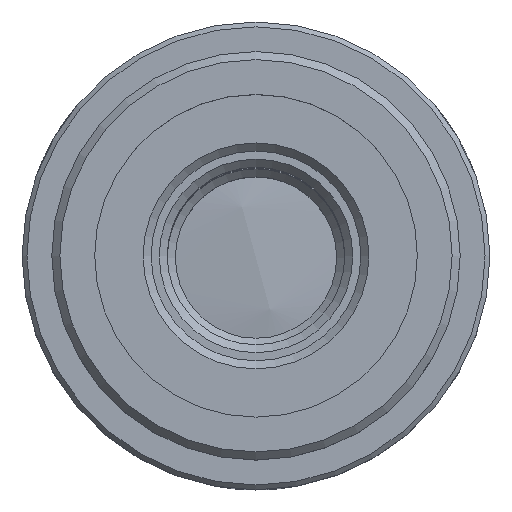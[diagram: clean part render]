
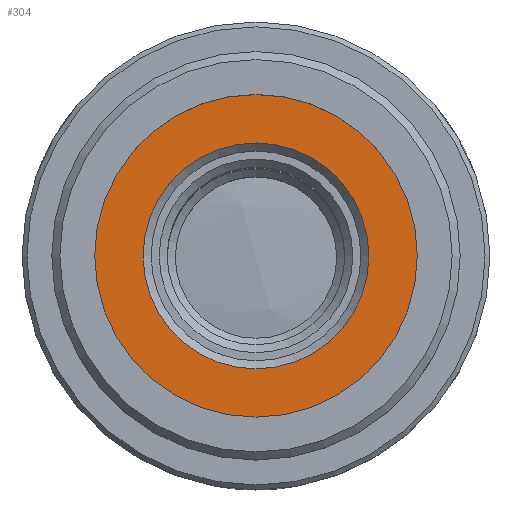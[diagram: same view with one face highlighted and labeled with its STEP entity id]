
A CAD part, top view. The second image highlights one B-rep face of the part: STEP entity #304.
In plain terms, the highlighted planar face has unit normal (0, 0, 1).
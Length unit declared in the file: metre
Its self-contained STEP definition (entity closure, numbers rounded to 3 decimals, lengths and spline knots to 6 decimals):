
#304=ADVANCED_FACE('4:6238',(#710,#711),#712,.F.);
#710=FACE_BOUND('',#1292,.T.);
#711=FACE_OUTER_BOUND('',#1293,.T.);
#712=PLANE('',#1294);
#1292=EDGE_LOOP('',(#1926));
#1293=EDGE_LOOP('',(#1927));
#1294=AXIS2_PLACEMENT_3D('',#1928,#1929,#1930);
#1926=ORIENTED_EDGE('',*,*,#2630,.T.);
#1927=ORIENTED_EDGE('',*,*,#2628,.F.);
#1928=CARTESIAN_POINT('',(0.012802,0.010149,0.044099));
#1929=DIRECTION('',(0.,0.0,-1.0));
#1930=DIRECTION('',(-1.0,0.0,0.));
#2628=EDGE_CURVE('4:6463',#3068,#3068,#3069,.T.);
#2630=EDGE_CURVE('4:6490',#3071,#3071,#3072,.T.);
#3068=VERTEX_POINT('',#3867);
#3069=CIRCLE('',#3868,0.01);
#3071=VERTEX_POINT('',#3870);
#3072=CIRCLE('',#3871,0.007);
#3867=CARTESIAN_POINT('',(0.002802,0.000149,0.044099));
#3868=AXIS2_PLACEMENT_3D('',#4503,#4504,#4505);
#3870=CARTESIAN_POINT('',(0.005802,0.000149,0.044099));
#3871=AXIS2_PLACEMENT_3D('',#4506,#4507,#4508);
#4503=CARTESIAN_POINT('',(0.012802,0.000149,0.044099));
#4504=DIRECTION('',(0.,0.0,-1.0));
#4505=DIRECTION('',(-1.0,0.0,0.));
#4506=CARTESIAN_POINT('',(0.012802,0.000149,0.044099));
#4507=DIRECTION('',(0.,0.0,-1.0));
#4508=DIRECTION('',(-1.0,0.0,0.));
